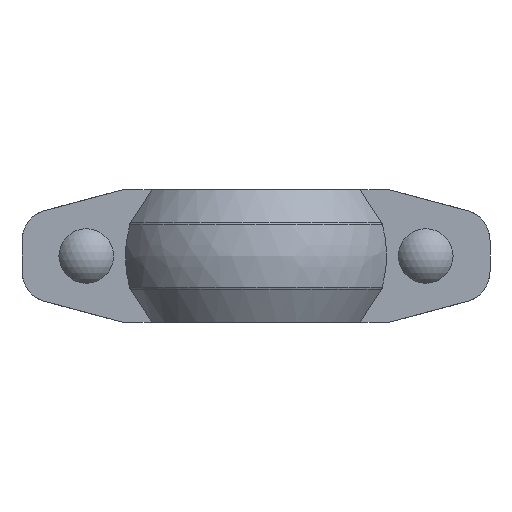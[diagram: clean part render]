
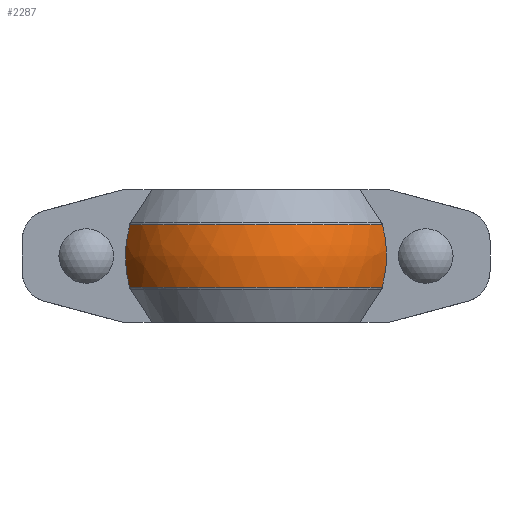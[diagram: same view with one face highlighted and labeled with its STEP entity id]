
A CAD part, front view. The second image highlights one B-rep face of the part: STEP entity #2287.
In plain terms, the highlighted free-form (B-spline) face has degree [2, 2] with [3, 5] control points.
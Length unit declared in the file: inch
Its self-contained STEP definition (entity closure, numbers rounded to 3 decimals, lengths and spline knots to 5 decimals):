
#45=(
BOUNDED_SURFACE()
B_SPLINE_SURFACE(2,2,((#4491,#4492,#4493,#4494,#4495),(#4496,#4497,#4498,
#4499,#4500),(#4501,#4502,#4503,#4504,#4505)),.UNSPECIFIED.,.F.,.F.,.F.)
B_SPLINE_SURFACE_WITH_KNOTS((3,3),(3,2,3),(-0.24005,0.24005),
(0.44189,1.5708,2.69971),.UNSPECIFIED.)
GEOMETRIC_REPRESENTATION_ITEM()
RATIONAL_B_SPLINE_SURFACE(((1.,0.845,1.,0.845,1.),
(0.971,0.821,0.971,0.821,
0.971),(1.,0.845,1.,0.845,1.)))
REPRESENTATION_ITEM('')
SURFACE()
);
#80=B_SPLINE_CURVE_WITH_KNOTS('',3,(#4413,#4414,#4415,#4416,#4417,#4418,
#4419,#4420,#4421,#4422),.UNSPECIFIED.,.F.,.F.,(4,2,2,2,4),(21.69687,
22.16203,22.90079,23.63955,24.1047),
 .UNSPECIFIED.);
#83=B_SPLINE_CURVE_WITH_KNOTS('',3,(#4456,#4457,#4458,#4459,#4460,#4461,
#4462,#4463,#4464,#4465),.UNSPECIFIED.,.F.,.F.,(4,2,2,2,4),(6.42968,
6.89484,7.6336,8.37236,8.83751),
 .UNSPECIFIED.);
#310=FACE_OUTER_BOUND('',#443,.T.);
#443=EDGE_LOOP('',(#1988,#1989,#1990,#1991));
#857=CIRCLE('',#2526,2.25456);
#861=CIRCLE('',#2532,2.25456);
#1056=VERTEX_POINT('',#4405);
#1057=VERTEX_POINT('',#4412);
#1063=VERTEX_POINT('',#4448);
#1064=VERTEX_POINT('',#4455);
#1357=EDGE_CURVE('',#1057,#1056,#80,.T.);
#1367=EDGE_CURVE('',#1064,#1063,#83,.T.);
#1374=EDGE_CURVE('',#1064,#1056,#857,.T.);
#1378=EDGE_CURVE('',#1057,#1063,#861,.T.);
#1988=ORIENTED_EDGE('',*,*,#1367,.T.);
#1989=ORIENTED_EDGE('',*,*,#1378,.F.);
#1990=ORIENTED_EDGE('',*,*,#1357,.T.);
#1991=ORIENTED_EDGE('',*,*,#1374,.F.);
#2287=ADVANCED_FACE('',(#310),#45,.F.);
#2526=AXIS2_PLACEMENT_3D('',#4485,#3142,#3143);
#2532=AXIS2_PLACEMENT_3D('',#4506,#3154,#3155);
#3142=DIRECTION('center_axis',(0.,0.,1.));
#3143=DIRECTION('ref_axis',(0.,1.,0.));
#3154=DIRECTION('center_axis',(0.,0.,-1.));
#3155=DIRECTION('ref_axis',(0.,1.,0.));
#4405=CARTESIAN_POINT('',(2.02557,-0.99,0.50112));
#4412=CARTESIAN_POINT('',(2.02557,-0.99,-0.50112));
#4413=CARTESIAN_POINT('Ctrl Pts',(2.02557,-0.99,-0.50112));
#4414=CARTESIAN_POINT('Ctrl Pts',(2.04253,-0.99,-0.43888));
#4415=CARTESIAN_POINT('Ctrl Pts',(2.05685,-0.99,-0.37357));
#4416=CARTESIAN_POINT('Ctrl Pts',(2.08475,-0.99,-0.20308));
#4417=CARTESIAN_POINT('Ctrl Pts',(2.09264,-0.99,-0.09695));
#4418=CARTESIAN_POINT('Ctrl Pts',(2.09264,-0.99,0.09695));
#4419=CARTESIAN_POINT('Ctrl Pts',(2.08475,-0.99,0.20308));
#4420=CARTESIAN_POINT('Ctrl Pts',(2.05685,-0.99,0.37357));
#4421=CARTESIAN_POINT('Ctrl Pts',(2.04253,-0.99,0.43888));
#4422=CARTESIAN_POINT('Ctrl Pts',(2.02557,-0.99,0.50112));
#4448=CARTESIAN_POINT('',(-2.02557,-0.99,-0.50112));
#4455=CARTESIAN_POINT('',(-2.02557,-0.99,0.50112));
#4456=CARTESIAN_POINT('Ctrl Pts',(-2.02557,-0.99,0.50112));
#4457=CARTESIAN_POINT('Ctrl Pts',(-2.04253,-0.99,0.43888));
#4458=CARTESIAN_POINT('Ctrl Pts',(-2.05685,-0.99,0.37357));
#4459=CARTESIAN_POINT('Ctrl Pts',(-2.08475,-0.99,0.20308));
#4460=CARTESIAN_POINT('Ctrl Pts',(-2.09264,-0.99,0.09695));
#4461=CARTESIAN_POINT('Ctrl Pts',(-2.09264,-0.99,-0.09695));
#4462=CARTESIAN_POINT('Ctrl Pts',(-2.08475,-0.99,-0.20308));
#4463=CARTESIAN_POINT('Ctrl Pts',(-2.05685,-0.99,-0.37357));
#4464=CARTESIAN_POINT('Ctrl Pts',(-2.04253,-0.99,-0.43888));
#4465=CARTESIAN_POINT('Ctrl Pts',(-2.02557,-0.99,-0.50112));
#4485=CARTESIAN_POINT('Origin',(0.,0.,0.50112));
#4491=CARTESIAN_POINT('Ctrl Pts',(2.038,-0.96415,0.50112));
#4492=CARTESIAN_POINT('Ctrl Pts',(1.42753,-2.25456,0.50112));
#4493=CARTESIAN_POINT('Ctrl Pts',(0.,-2.25456,
0.50112));
#4494=CARTESIAN_POINT('Ctrl Pts',(-1.42753,-2.25456,0.50112));
#4495=CARTESIAN_POINT('Ctrl Pts',(-2.038,-0.96415,
0.50112));
#4496=CARTESIAN_POINT('Ctrl Pts',(2.14888,-1.01661,0.));
#4497=CARTESIAN_POINT('Ctrl Pts',(1.50519,-2.37722,0.));
#4498=CARTESIAN_POINT('Ctrl Pts',(0.,-2.37722,
0.));
#4499=CARTESIAN_POINT('Ctrl Pts',(-1.50519,-2.37722,0.));
#4500=CARTESIAN_POINT('Ctrl Pts',(-2.14888,-1.01661,0.));
#4501=CARTESIAN_POINT('Ctrl Pts',(2.038,-0.96415,-0.50112));
#4502=CARTESIAN_POINT('Ctrl Pts',(1.42753,-2.25456,-0.50112));
#4503=CARTESIAN_POINT('Ctrl Pts',(0.,-2.25456,
-0.50112));
#4504=CARTESIAN_POINT('Ctrl Pts',(-1.42753,-2.25456,-0.50112));
#4505=CARTESIAN_POINT('Ctrl Pts',(-2.038,-0.96415,
-0.50112));
#4506=CARTESIAN_POINT('Origin',(0.,0.,-0.50112));
